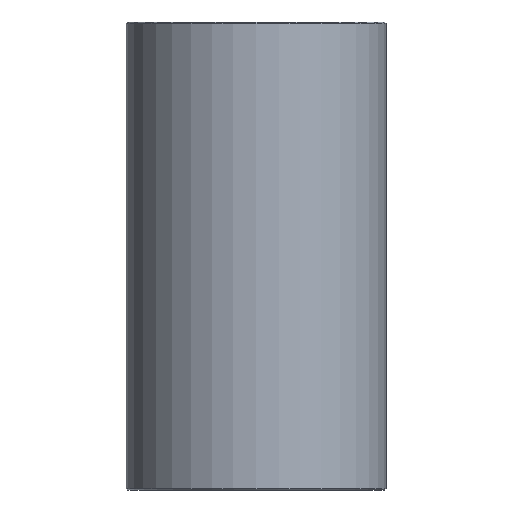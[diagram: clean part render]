
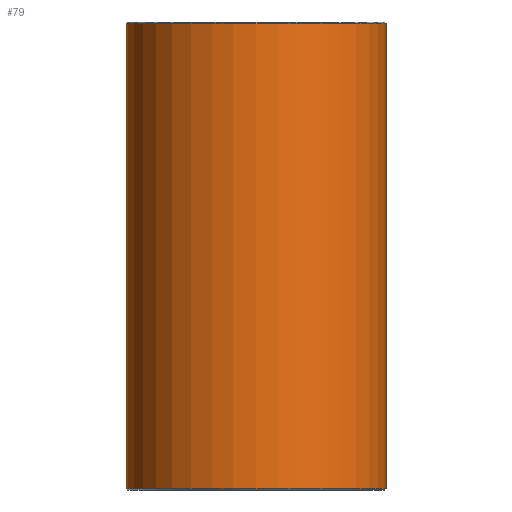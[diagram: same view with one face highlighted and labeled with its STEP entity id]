
A CAD part, front view. The second image highlights one B-rep face of the part: STEP entity #79.
In plain terms, the highlighted cylindrical face has radius 25 mm (diameter 50 mm), a full revolution.
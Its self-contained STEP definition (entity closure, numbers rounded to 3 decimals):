
#79=ADVANCED_FACE('',(#96,#97),#98,.T.);
#96=FACE_OUTER_BOUND('',#120,.T.);
#97=FACE_OUTER_BOUND('',#121,.T.);
#98=CYLINDRICAL_SURFACE('',#122,25.0);
#120=EDGE_LOOP('',(#152));
#121=EDGE_LOOP('',(#153));
#122=AXIS2_PLACEMENT_3D('',#154,#155,#156);
#152=ORIENTED_EDGE('',*,*,#178,.T.);
#153=ORIENTED_EDGE('',*,*,#177,.T.);
#154=CARTESIAN_POINT('',(0.,0.0,90.0));
#155=DIRECTION('',(0.0,0.0,-1.0));
#156=DIRECTION('',(-1.0,0.0,0.0));
#177=EDGE_CURVE('',#190,#190,#191,.T.);
#178=EDGE_CURVE('',#192,#192,#193,.F.);
#190=VERTEX_POINT('',#206);
#191=CIRCLE('',#207,25.0);
#192=VERTEX_POINT('',#208);
#193=CIRCLE('',#209,25.0);
#206=CARTESIAN_POINT('',(25.0,0.0,0.2));
#207=AXIS2_PLACEMENT_3D('',#227,#228,#229);
#208=CARTESIAN_POINT('',(25.0,0.,89.8));
#209=AXIS2_PLACEMENT_3D('',#230,#231,#232);
#227=CARTESIAN_POINT('',(0.,0.0,0.2));
#228=DIRECTION('',(0.0,0.0,1.0));
#229=DIRECTION('',(1.0,0.0,0.0));
#230=CARTESIAN_POINT('',(0.,0.0,89.8));
#231=DIRECTION('',(0.0,0.0,1.0));
#232=DIRECTION('',(1.0,0.0,0.0));
